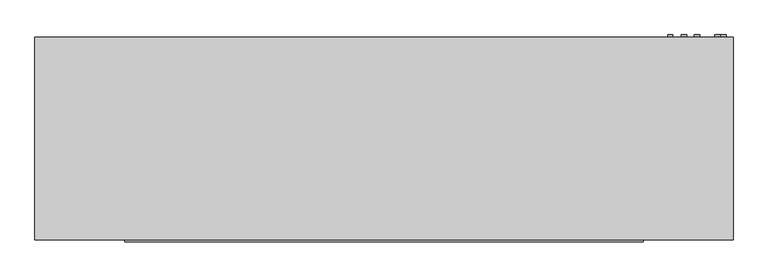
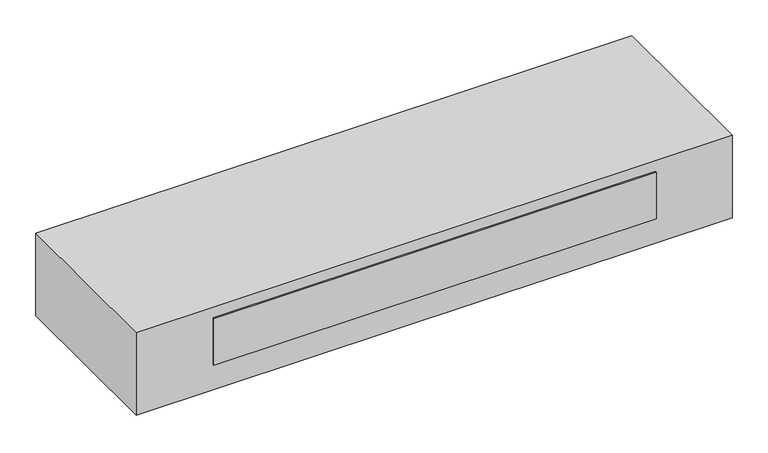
"""IFC4 building model written with IfcOpenShell, lengths in millimetres: proxy geometry, Exposed_Horizontal_Fan_Coil_Unit_-_42CGB_-_CARRIER_-_4-Pipe_FS-BR_RH_2022 : Size 12 - 277v/60Hz/1Ph - 4/1 Coil."""

from ifc_helpers import new_model, si_unit, point, frame, frame_2d, origin, place, context, project, spatial, polyline, circle_curve, trimmed, segment, composite_curve, outline, extrude, source, transform, mapped, element, save


def mechanical_equipment_3c0bcfd1(model_context):
    return source(origin(), model_context, "Body", "SweptSolid", [
        extrude(outline(composite_curve([segment(trimmed(circle_curve(frame_2d((-85.725, 1165.225)), 7.9375), [point((-85.725, 1173.1625))], [point((-85.725, 1157.2875))], False, "CARTESIAN"), True, "CONTINUOUS"), segment(trimmed(circle_curve(frame_2d((-85.725, 1165.225)), 7.9375), [point((-85.725, 1157.2875))], [point((-85.725, 1173.1625))], False, "CARTESIAN"), True, "CONTINUOUS")], self_intersect=False)), frame((0.0, 65.0875, 0.0), z_axis=(0.0, 1.0, 0.0), x_axis=(0.0, 0.0, 1.0)), (0.0, 0.0, 1.0), 6.35),
        extrude(outline(composite_curve([segment(trimmed(circle_curve(frame_2d((-44.45, 1085.85)), 7.9375), [point((-44.45, 1093.7875))], [point((-44.45, 1077.9125))], False, "CARTESIAN"), True, "CONTINUOUS"), segment(trimmed(circle_curve(frame_2d((-44.45, 1085.85)), 7.9375), [point((-44.45, 1077.9125))], [point((-44.45, 1093.7875))], False, "CARTESIAN"), True, "CONTINUOUS")], self_intersect=False)), frame((0.0, 65.0875, 0.0), z_axis=(0.0, 1.0, 0.0), x_axis=(0.0, 0.0, 1.0)), (0.0, 0.0, 1.0), 6.35),
        extrude(outline(composite_curve([segment(trimmed(circle_curve(frame_2d((-95.25, 1047.75)), 7.9375), [point((-95.25, 1055.6875))], [point((-95.25, 1039.8125))], False, "CARTESIAN"), True, "CONTINUOUS"), segment(trimmed(circle_curve(frame_2d((-95.25, 1047.75)), 7.9375), [point((-95.25, 1039.8125))], [point((-95.25, 1055.6875))], False, "CARTESIAN"), True, "CONTINUOUS")], self_intersect=False)), frame((0.0, 65.0875, 0.0), z_axis=(0.0, 1.0, 0.0), x_axis=(0.0, 0.0, 1.0)), (0.0, 0.0, 1.0), 6.35),
        extrude(outline(composite_curve([segment(trimmed(circle_curve(frame_2d((-60.325, 1006.475)), 7.9375), [point((-60.325, 1014.4125))], [point((-60.325, 998.5375))], False, "CARTESIAN"), True, "CONTINUOUS"), segment(trimmed(circle_curve(frame_2d((-60.325, 1006.475)), 7.9375), [point((-60.325, 998.5375))], [point((-60.325, 1014.4125))], False, "CARTESIAN"), True, "CONTINUOUS")], self_intersect=False)), frame((0.0, 65.0875, 0.0), z_axis=(0.0, 1.0, 0.0), x_axis=(0.0, 0.0, 1.0)), (0.0, 0.0, 1.0), 6.35),
        extrude(outline(composite_curve([segment(trimmed(circle_curve(frame_2d((-260.35, 1149.35)), 9.525), [point((-260.35, 1158.875))], [point((-260.35, 1139.825))], False, "CARTESIAN"), True, "CONTINUOUS"), segment(trimmed(circle_curve(frame_2d((-260.35, 1149.35)), 9.525), [point((-260.35, 1139.825))], [point((-260.35, 1158.875))], False, "CARTESIAN"), True, "CONTINUOUS")], self_intersect=False)), frame((0.0, 65.0875, 0.0), z_axis=(0.0, 1.0, 0.0), x_axis=(0.0, 0.0, 1.0)), (0.0, 0.0, 1.0), 6.35),
        extrude(outline(polyline([(-889.0, 65.0875), (1193.8, 65.0875), (1193.8, -541.3375), (-889.0, -541.3375), (-889.0, 65.0875)])), frame((0.0, 0.0, -304.8), z_axis=(0.0, 0.0, 1.0), x_axis=(1.0, 0.0, 0.0)), (0.0, 0.0, 1.0), 304.8),
        extrude(outline(polyline([(925.5125, -547.6875), (-620.7125, -547.6875), (-620.7125, -541.3375), (925.5125, -541.3375), (925.5125, -547.6875)])), frame((0.0, 0.0, -209.55), z_axis=(0.0, 0.0, 1.0), x_axis=(1.0, 0.0, 0.0)), (0.0, 0.0, 1.0), 171.45),
        extrude(outline(polyline([(952.5, -11.1125), (952.5, -265.1125), (-647.7, -265.1125), (-647.7, -11.1125), (952.5, -11.1125)])), frame((0.0, 0.0, -311.15), z_axis=(0.0, 0.0, 1.0), x_axis=(1.0, 0.0, 0.0)), (0.0, 0.0, 1.0), 6.35),
    ])


if __name__ == "__main__":
    model = new_model("IFC4")
    model_context = context("Model", 3, world=origin())
    ifc_project = project(units=[si_unit("LENGTHUNIT", "METRE", prefix="MILLI")], contexts=[model_context])
    site = spatial("IfcSite", under=ifc_project)
    building = spatial("IfcBuilding", under=site)
    placement = place(None, origin())
    mechanical_equipment_shape = mechanical_equipment_3c0bcfd1(model_context)
    element("IfcBuildingElementProxy", 1, Name="Exposed_Horizontal_Fan_Coil_Unit_-_42CGB_-_CARRIER_-_4-Pipe_FS-BR_RH_2022 : Size 12 - 277v/60Hz/1Ph - 4/1 Coil", ObjectType="Exposed_Horizontal_Fan_Coil_Unit_-_42CGB_-_CARRIER_-_4-Pipe_FS-BR_RH_2022 : Size 12 - 277v/60Hz/1Ph - 4/1 Coil", at=placement, inside=building, context=model_context, shape_type="MappedRepresentation", body=[
        mapped(mechanical_equipment_shape, transform((0.0, 0.0, 0.0), x_axis=(1.0, 0.0, 0.0), y_axis=(0.0, 1.0, 0.0), z_axis=(0.0, 0.0, 1.0))),
    ])
    save(model, "model.ifc")
